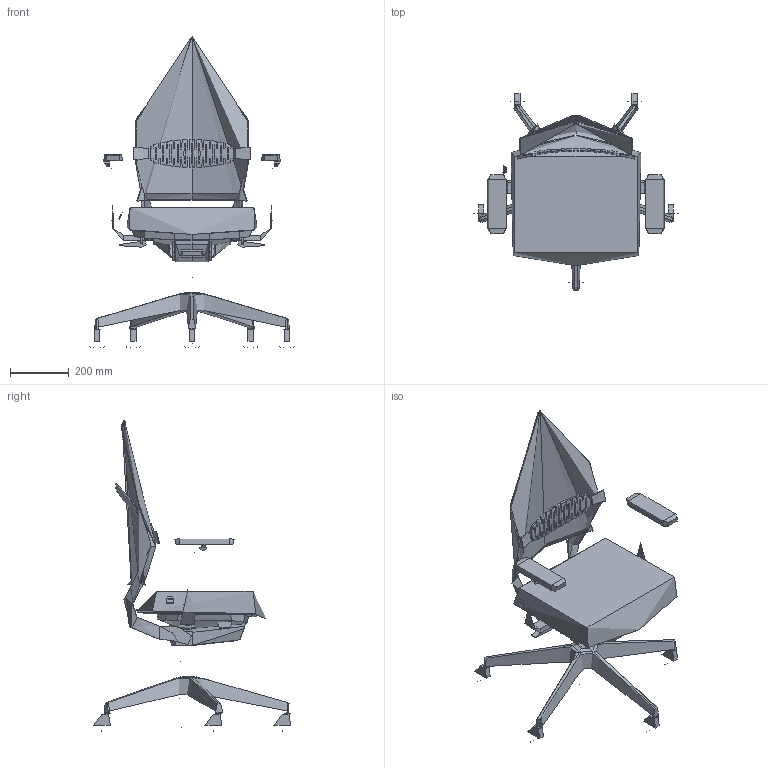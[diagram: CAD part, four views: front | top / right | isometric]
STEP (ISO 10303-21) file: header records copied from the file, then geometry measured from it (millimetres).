
FILE_DESCRIPTION(/* description */ (''),/* implementation_level */ '2;1');
FILE_NAME(/* name */ 'Arcus 240-SYAC,BR-235,BO',/* time_stamp */ '2023-06-13T22:47:18+02:00',/* author */ (''),/* organization */ (''),/* preprocessor_version */ 'ST-DEVELOPER v16.5',/* originating_system */ 'Rhino 7.29',/* authorisation */ '');
FILE_SCHEMA (('CONFIG_CONTROL_DESIGN'));
Length unit declared in the file: millimetre
Products named in the file (1): Document
Bounding box: 696.72 x 672.99 x 1061.25 mm (x, y, z)
Volume: 1509774.4 mm3; surface area: 2234647.2 mm2
Topology: 17 solids, 68 shells, 824 faces, 2132 edges, 1374 vertices
Faces by surface type: bspline 317, cylinder 276, plane 231
Full cylindrical faces by diameter (mm): 11 x5, 22.353 x1, 28 x1, 46 x1, 50 x1, 57 x1, 60 x4
Entity records: 72998 total; most frequent: CARTESIAN_POINT 59300, ORIENTED_EDGE 4011, EDGE_CURVE 2127, B_SPLINE_CURVE_WITH_KNOTS 1693, VERTEX_POINT 1374, EDGE_LOOP 852, ADVANCED_FACE 824, FACE_OUTER_BOUND 824
